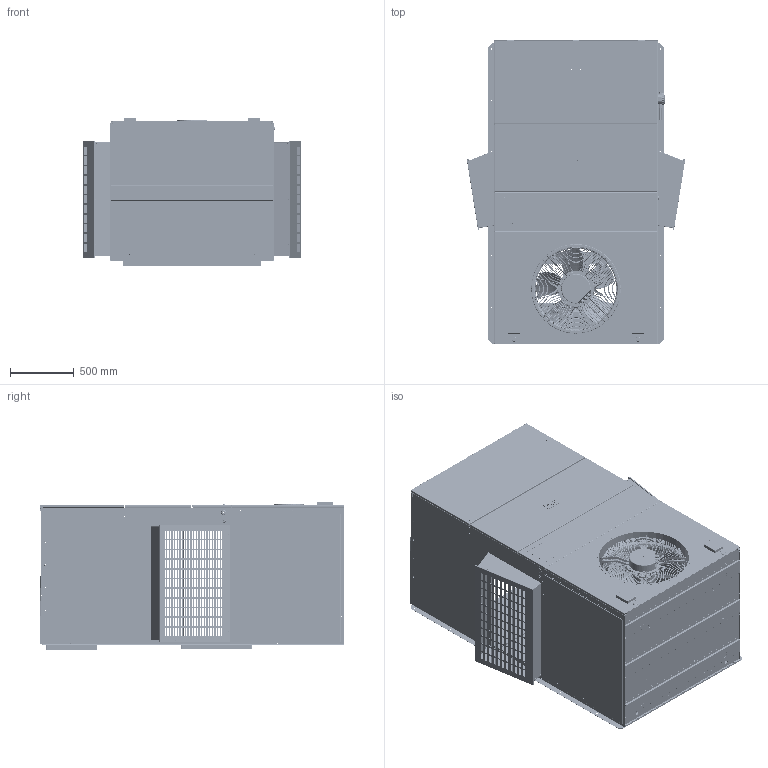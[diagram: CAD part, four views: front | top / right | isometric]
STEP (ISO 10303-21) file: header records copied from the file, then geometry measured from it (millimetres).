
FILE_DESCRIPTION (( 'STEP AP214' ), '1' );
FILE_NAME ('W090-150.STEP', '2022-12-02T14:49:08', ( '' ), ( '' ), 'SwSTEP 2.0', 'SolidWorks 2022', '' );
FILE_SCHEMA (( 'AUTOMOTIVE_DESIGN' ));
Length unit declared in the file: inch
Products named in the file (1): W090-150
Bounding box: 1716.38 x 2395.48 x 1163.76 mm (x, y, z)
Surface area: 37540158.5 mm2 (no closed solid volume)
Topology: 0 solids, 606 shells, 13290 faces, 43918 edges, 30841 vertices
Faces by surface type: plane 7681, cylinder 3481, bspline 1300, cone 651, torus 171, sphere 6
Entity records: 775079 total; most frequent: CARTESIAN_POINT 223544, ORIENTED_EDGE 79556, DIRECTION 69948, EDGE_CURVE 43702, VERTEX_POINT 30841, LINE 28712, VECTOR 28712, AXIS2_PLACEMENT_3D 20618
